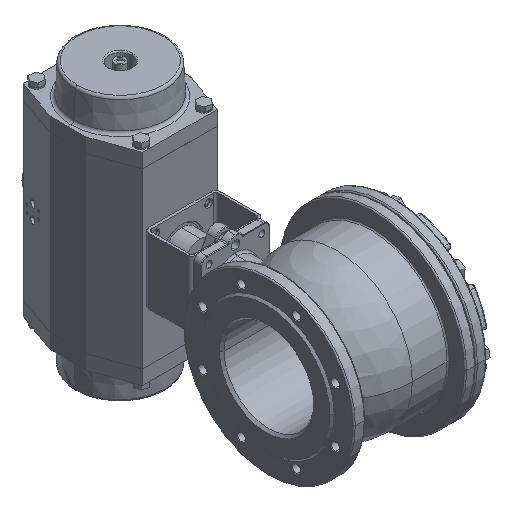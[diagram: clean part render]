
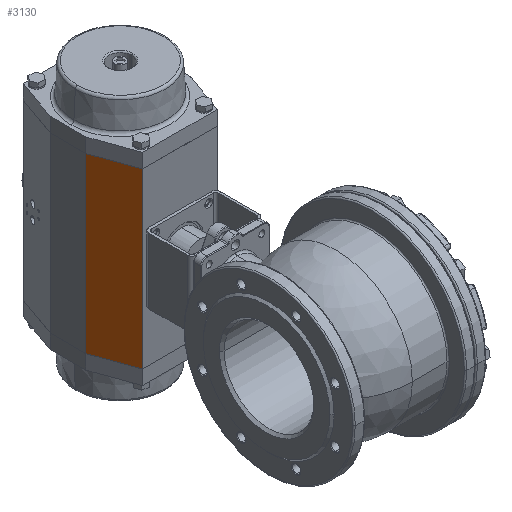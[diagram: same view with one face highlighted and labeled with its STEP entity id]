
A CAD part, isometric view. The second image highlights one B-rep face of the part: STEP entity #3130.
In plain terms, the highlighted planar face has unit normal (-0.942, -0.336, 0) as drawn and (0.942, -0.336, 0) by its records, which use the part's own axes.
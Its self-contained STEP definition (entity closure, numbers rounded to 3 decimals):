
#19 = VECTOR ( 'NONE', #4261, 1000. ) ;
#37 = VECTOR ( 'NONE', #4360, 1000. ) ;
#2785 = CARTESIAN_POINT ( 'NONE',  ( 62.5, -100., -145. ) ) ;
#2789 = CARTESIAN_POINT ( 'NONE',  ( 87.5, -30., -145. ) ) ;
#2808 = CARTESIAN_POINT ( 'NONE',  ( 62.5, -100., 145. ) ) ;
#2809 = CARTESIAN_POINT ( 'NONE',  ( 87.5, -30., 145. ) ) ;
#3130 = ADVANCED_FACE ( 'NONE', ( #5488 ), #5474, .T. ) ;
#3298 = EDGE_CURVE ( 'NONE', #14057, #14076, #6755, .T. ) ;
#3299 = EDGE_CURVE ( 'NONE', #14053, #14075, #6742, .T. ) ;
#3378 = EDGE_CURVE ( 'NONE', #14053, #14057, #4258, .T. ) ;
#3396 = EDGE_CURVE ( 'NONE', #14075, #14076, #4355, .T. ) ;
#4258 = LINE ( 'NONE', #4260, #19 ) ;
#4260 = CARTESIAN_POINT ( 'NONE',  ( 62.5, -100., -145. ) ) ;
#4261 = DIRECTION ( 'NONE',  ( 0.336, 0.942, 0. ) ) ;
#4355 = LINE ( 'NONE', #4358, #37 ) ;
#4358 = CARTESIAN_POINT ( 'NONE',  ( 62.5, -100., 145. ) ) ;
#4360 = DIRECTION ( 'NONE',  ( 0.336, 0.942, 0. ) ) ;
#5474 = PLANE ( 'NONE',  #15961 ) ;
#5482 = CARTESIAN_POINT ( 'NONE',  ( 62.5, -100., -145. ) ) ;
#5488 = FACE_OUTER_BOUND ( 'NONE', #13577, .T. ) ;
#5490 = DIRECTION ( 'NONE',  ( 0.942, -0.336, 0. ) ) ;
#5491 = DIRECTION ( 'NONE',  ( 0.336, 0.942, 0. ) ) ;
#6742 = LINE ( 'NONE', #6763, #11018 ) ;
#6755 = LINE ( 'NONE', #6761, #11016 ) ;
#6761 = CARTESIAN_POINT ( 'NONE',  ( 87.5, -30., -145. ) ) ;
#6762 = DIRECTION ( 'NONE',  ( 0., 0., 1. ) ) ;
#6763 = CARTESIAN_POINT ( 'NONE',  ( 62.5, -100., -145. ) ) ;
#6765 = DIRECTION ( 'NONE',  ( 0., 0., 1. ) ) ;
#11016 = VECTOR ( 'NONE', #6762, 1000. ) ;
#11018 = VECTOR ( 'NONE', #6765, 1000. ) ;
#13577 = EDGE_LOOP ( 'NONE', ( #25191, #25145, #25088, #25087 ) ) ;
#14053 = VERTEX_POINT ( 'NONE', #2785 ) ;
#14057 = VERTEX_POINT ( 'NONE', #2789 ) ;
#14075 = VERTEX_POINT ( 'NONE', #2808 ) ;
#14076 = VERTEX_POINT ( 'NONE', #2809 ) ;
#15961 = AXIS2_PLACEMENT_3D ( 'NONE', #5482, #5490, #5491 ) ;
#25087 = ORIENTED_EDGE ( 'NONE', *, *, #3378, .T. ) ;
#25088 = ORIENTED_EDGE ( 'NONE', *, *, #3299, .F. ) ;
#25145 = ORIENTED_EDGE ( 'NONE', *, *, #3396, .F. ) ;
#25191 = ORIENTED_EDGE ( 'NONE', *, *, #3298, .T. ) ;
